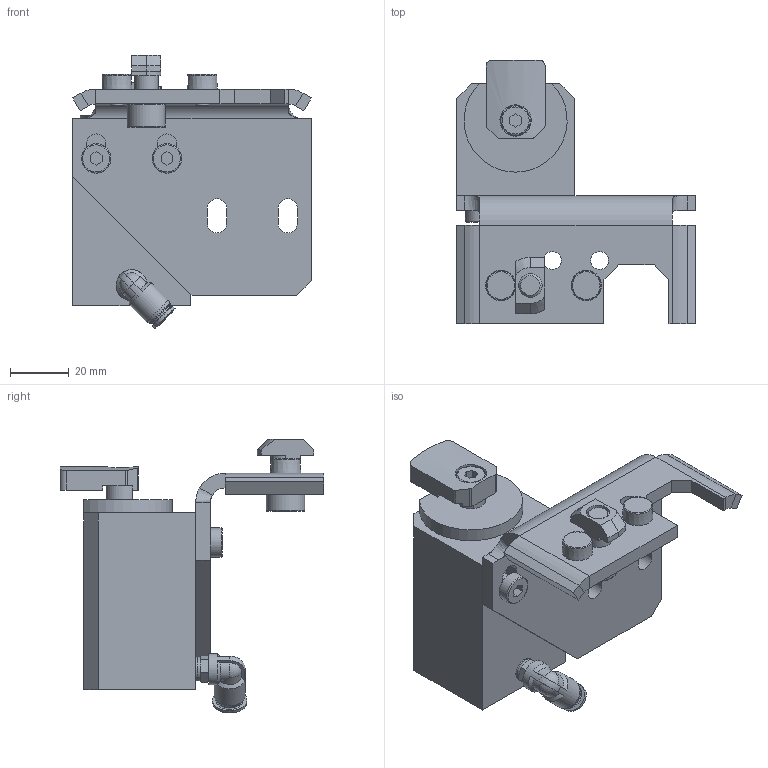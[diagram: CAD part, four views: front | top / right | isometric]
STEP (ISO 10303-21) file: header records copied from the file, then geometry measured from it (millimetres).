
FILE_DESCRIPTION (( 'STEP AP203' ), '1' );
FILE_NAME ('ASUTEC-ASME-60-100-ST.STEP', '2017-03-23T11:25:20', ( '' ), ( '' ), 'SwSTEP 2.0', 'SolidWorks 2015', '' );
FILE_SCHEMA (( 'CONFIG_CONTROL_DESIGN' ));
Length unit declared in the file: millimetre
Products named in the file (1): ASUTEC-ASME-60-100-ST
Bounding box: 81 x 89.5 x 92.78 mm (x, y, z)
Volume: 130449.5 mm3; surface area: 40951 mm2
Topology: 3 solids, 3 shells, 516 faces, 1313 edges, 857 vertices
Faces by surface type: plane 293, cylinder 118, bspline 53, cone 30, sphere 12, torus 10
Full cylindrical faces by diameter (mm): 0.1 x2, 2.1 x2, 2.4 x1, 4.2 x1, 4.5 x2, 4.8 x2, 5.3 x1, 5.5 x1, 6 x3, 6.1 x2, 8 x3, 8.01 x1, 8.4 x1, 9 x1, 9.45 x1, 10 x4, 10.5 x2, 10.6 x1, 13 x1, 22 x2
Entity records: 19126 total; most frequent: CARTESIAN_POINT 7188, ORIENTED_EDGE 2466, DIRECTION 2259, EDGE_CURVE 1233, VERTEX_POINT 833, LINE 771, VECTOR 771, AXIS2_PLACEMENT_3D 744
